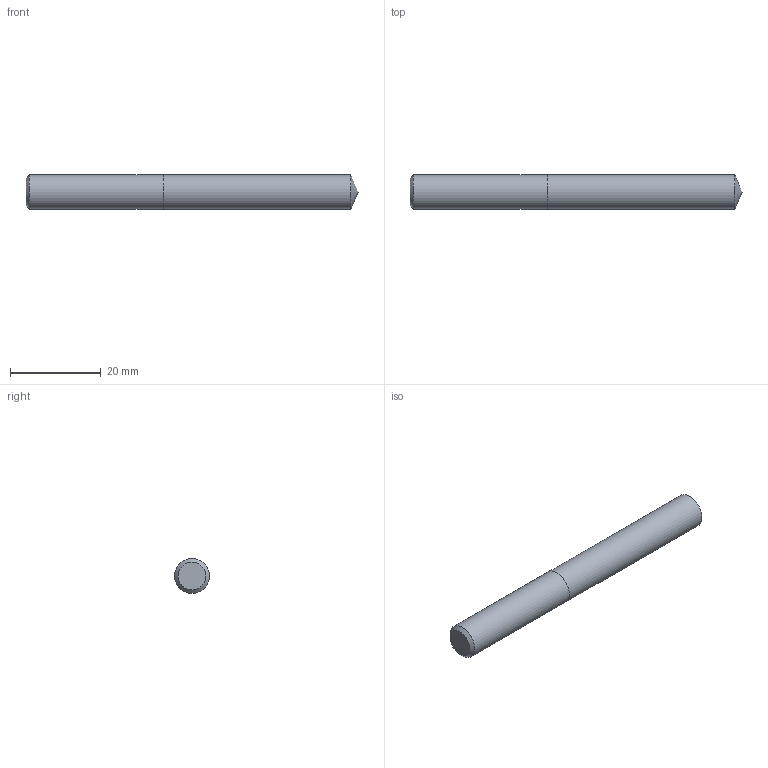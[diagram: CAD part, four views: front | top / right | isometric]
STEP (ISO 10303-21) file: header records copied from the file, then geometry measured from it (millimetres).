
FILE_DESCRIPTION (( 'STEP AP214' ), '1' );
FILE_NAME ('03-2330.STEP', '2022-06-03T06:18:28', ( 'USER' ), ( '' ), 'SwSTEP 2.0', 'SolidWorks 2018', '' );
FILE_SCHEMA (( 'AUTOMOTIVE_DESIGN' ));
Length unit declared in the file: inch
Products named in the file (1): 03-2330
Bounding box: 73.03 x 7.67 x 7.67 mm (x, y, z)
Volume: 3319.3 mm3; surface area: 1898.6 mm2
Topology: 2 solids, 2 shells, 7 faces, 11 edges, 7 vertices
Faces by surface type: plane 3, cylinder 2, cone 2
Full cylindrical faces by diameter (mm): 7.671 x2
Entity records: 214 total; most frequent: DIRECTION 26, CARTESIAN_POINT 18, AXIS2_PLACEMENT_3D 13, EDGE_LOOP 10, ORIENTED_EDGE 10, FACE_OUTER_BOUND 9, ADVANCED_FACE 7, UNCERTAINTY_MEASURE_WITH_UNIT 7
